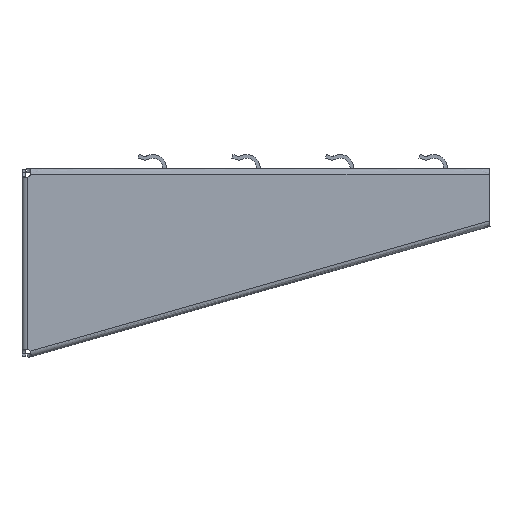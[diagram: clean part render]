
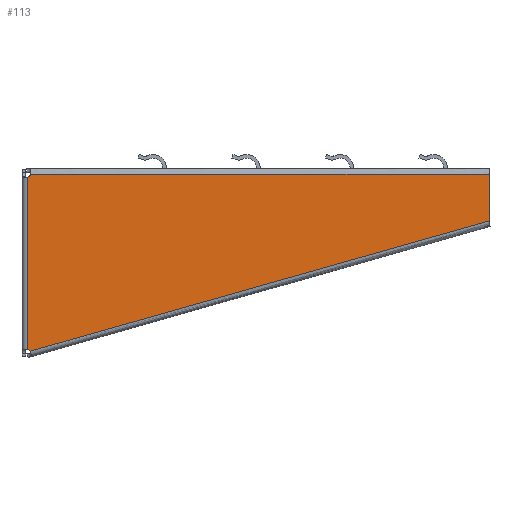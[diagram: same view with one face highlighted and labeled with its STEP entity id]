
A CAD part, left-side view. The second image highlights one B-rep face of the part: STEP entity #113.
In plain terms, the highlighted planar face has unit normal (-1, 0, 0).
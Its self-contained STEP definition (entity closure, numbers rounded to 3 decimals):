
#113=ADVANCED_FACE('',(#239),#2074,.T.);
#239=FACE_OUTER_BOUND('',#373,.T.);
#373=EDGE_LOOP('',(#809,#810,#811,#812,#813,#814,#815,#816,#817,#818,#819,
#820,#821,#822));
#809=ORIENTED_EDGE('',*,*,#1195,.T.);
#810=ORIENTED_EDGE('',*,*,#1295,.T.);
#811=ORIENTED_EDGE('',*,*,#1192,.T.);
#812=ORIENTED_EDGE('',*,*,#1189,.T.);
#813=ORIENTED_EDGE('',*,*,#1186,.T.);
#814=ORIENTED_EDGE('',*,*,#1183,.T.);
#815=ORIENTED_EDGE('',*,*,#1180,.T.);
#816=ORIENTED_EDGE('',*,*,#1290,.T.);
#817=ORIENTED_EDGE('',*,*,#1297,.T.);
#818=ORIENTED_EDGE('',*,*,#1177,.T.);
#819=ORIENTED_EDGE('',*,*,#1174,.T.);
#820=ORIENTED_EDGE('',*,*,#1171,.T.);
#821=ORIENTED_EDGE('',*,*,#1168,.T.);
#822=ORIENTED_EDGE('',*,*,#1292,.F.);
#1168=EDGE_CURVE('',#1814,#1812,#1440,.T.);
#1171=EDGE_CURVE('',#1816,#1814,#1443,.T.);
#1174=EDGE_CURVE('',#1818,#1816,#1446,.T.);
#1177=EDGE_CURVE('',#1820,#1818,#1449,.T.);
#1180=EDGE_CURVE('',#1822,#1808,#1452,.T.);
#1183=EDGE_CURVE('',#1824,#1822,#1455,.T.);
#1186=EDGE_CURVE('',#1826,#1824,#1458,.T.);
#1189=EDGE_CURVE('',#1828,#1826,#1461,.T.);
#1192=EDGE_CURVE('',#1830,#1828,#1464,.T.);
#1195=EDGE_CURVE('',#1832,#1833,#1690,.T.);
#1290=EDGE_CURVE('',#1808,#1810,#1525,.T.);
#1292=EDGE_CURVE('',#1832,#1812,#1527,.T.);
#1295=EDGE_CURVE('',#1833,#1830,#1530,.T.);
#1297=EDGE_CURVE('',#1810,#1820,#1532,.T.);
#1440=(
BOUNDED_CURVE()
B_SPLINE_CURVE(2,(#3413,#3414,#3415),.UNSPECIFIED.,.F.,.F.)
B_SPLINE_CURVE_WITH_KNOTS((3,3),(-599.612,-599.032),
 .UNSPECIFIED.)
CURVE()
GEOMETRIC_REPRESENTATION_ITEM()
RATIONAL_B_SPLINE_CURVE((1.,0.993,1.))
REPRESENTATION_ITEM('')
);
#1443=(
BOUNDED_CURVE()
B_SPLINE_CURVE(2,(#3421,#3422,#3423),.UNSPECIFIED.,.F.,.F.)
B_SPLINE_CURVE_WITH_KNOTS((3,3),(-599.619,-599.612),
 .UNSPECIFIED.)
CURVE()
GEOMETRIC_REPRESENTATION_ITEM()
RATIONAL_B_SPLINE_CURVE((1.,1.,1.))
REPRESENTATION_ITEM('')
);
#1446=(
BOUNDED_CURVE()
B_SPLINE_CURVE(2,(#3429,#3430,#3431),.UNSPECIFIED.,.F.,.F.)
B_SPLINE_CURVE_WITH_KNOTS((3,3),(-600.108,-599.619),
 .UNSPECIFIED.)
CURVE()
GEOMETRIC_REPRESENTATION_ITEM()
RATIONAL_B_SPLINE_CURVE((1.,0.995,1.))
REPRESENTATION_ITEM('')
);
#1449=(
BOUNDED_CURVE()
B_SPLINE_CURVE(2,(#3437,#3438,#3439),.UNSPECIFIED.,.F.,.F.)
B_SPLINE_CURVE_WITH_KNOTS((3,3),(-600.112,-600.108),
 .UNSPECIFIED.)
CURVE()
GEOMETRIC_REPRESENTATION_ITEM()
RATIONAL_B_SPLINE_CURVE((1.,1.,1.))
REPRESENTATION_ITEM('')
);
#1452=(
BOUNDED_CURVE()
B_SPLINE_CURVE(2,(#3445,#3446,#3447),.UNSPECIFIED.,.F.,.F.)
B_SPLINE_CURVE_WITH_KNOTS((3,3),(-760.314,-759.736),
 .UNSPECIFIED.)
CURVE()
GEOMETRIC_REPRESENTATION_ITEM()
RATIONAL_B_SPLINE_CURVE((1.,0.993,1.))
REPRESENTATION_ITEM('')
);
#1455=(
BOUNDED_CURVE()
B_SPLINE_CURVE(2,(#3453,#3454,#3455),.UNSPECIFIED.,.F.,.F.)
B_SPLINE_CURVE_WITH_KNOTS((3,3),(-760.322,-760.314),
 .UNSPECIFIED.)
CURVE()
GEOMETRIC_REPRESENTATION_ITEM()
RATIONAL_B_SPLINE_CURVE((1.,1.,1.))
REPRESENTATION_ITEM('')
);
#1458=(
BOUNDED_CURVE()
B_SPLINE_CURVE(2,(#3461,#3462,#3463),.UNSPECIFIED.,.F.,.F.)
B_SPLINE_CURVE_WITH_KNOTS((3,3),(-761.504,-760.322),
 .UNSPECIFIED.)
CURVE()
GEOMETRIC_REPRESENTATION_ITEM()
RATIONAL_B_SPLINE_CURVE((1.,0.972,1.))
REPRESENTATION_ITEM('')
);
#1461=(
BOUNDED_CURVE()
B_SPLINE_CURVE(2,(#3469,#3470,#3471),.UNSPECIFIED.,.F.,.F.)
B_SPLINE_CURVE_WITH_KNOTS((3,3),(-761.506,-761.504),
 .UNSPECIFIED.)
CURVE()
GEOMETRIC_REPRESENTATION_ITEM()
RATIONAL_B_SPLINE_CURVE((1.,1.,1.))
REPRESENTATION_ITEM('')
);
#1464=(
BOUNDED_CURVE()
B_SPLINE_CURVE(2,(#3478,#3479,#3480),.UNSPECIFIED.,.F.,.F.)
B_SPLINE_CURVE_WITH_KNOTS((3,3),(-762.093,-761.506),
 .UNSPECIFIED.)
CURVE()
GEOMETRIC_REPRESENTATION_ITEM()
RATIONAL_B_SPLINE_CURVE((1.,0.993,1.))
REPRESENTATION_ITEM('')
);
#1525=(
BOUNDED_CURVE()
B_SPLINE_CURVE(1,(#3908,#3909),.UNSPECIFIED.,.F.,.F.)
B_SPLINE_CURVE_WITH_KNOTS((2,2),(0.,91.958),.UNSPECIFIED.)
CURVE()
GEOMETRIC_REPRESENTATION_ITEM()
RATIONAL_B_SPLINE_CURVE((1.,1.))
REPRESENTATION_ITEM('')
);
#1527=(
BOUNDED_CURVE()
B_SPLINE_CURVE(1,(#3912,#3913),.UNSPECIFIED.,.F.,.F.)
B_SPLINE_CURVE_WITH_KNOTS((2,2),(-254.914,0.),.UNSPECIFIED.)
CURVE()
GEOMETRIC_REPRESENTATION_ITEM()
RATIONAL_B_SPLINE_CURVE((1.,1.))
REPRESENTATION_ITEM('')
);
#1530=(
BOUNDED_CURVE()
B_SPLINE_CURVE(1,(#3925,#3926),.UNSPECIFIED.,.F.,.F.)
B_SPLINE_CURVE_WITH_KNOTS((2,2),(-244.93,0.),.UNSPECIFIED.)
CURVE()
GEOMETRIC_REPRESENTATION_ITEM()
RATIONAL_B_SPLINE_CURVE((1.,1.))
REPRESENTATION_ITEM('')
);
#1532=(
BOUNDED_CURVE()
B_SPLINE_CURVE(2,(#3929,#3930,#3931),.UNSPECIFIED.,.F.,.F.)
B_SPLINE_CURVE_WITH_KNOTS((3,3),(-600.698,-600.112),
 .UNSPECIFIED.)
CURVE()
GEOMETRIC_REPRESENTATION_ITEM()
RATIONAL_B_SPLINE_CURVE((1.,0.994,1.))
REPRESENTATION_ITEM('')
);
#1690=B_SPLINE_CURVE_WITH_KNOTS('',1,(#3486,#3487),.UNSPECIFIED.,.F.,.F.,
(2,2),(-1088.059,-1063.12),.UNSPECIFIED.);
#1808=VERTEX_POINT('',#3087);
#1810=VERTEX_POINT('',#3089);
#1812=VERTEX_POINT('',#3091);
#1814=VERTEX_POINT('',#3093);
#1816=VERTEX_POINT('',#3095);
#1818=VERTEX_POINT('',#3097);
#1820=VERTEX_POINT('',#3099);
#1822=VERTEX_POINT('',#3101);
#1824=VERTEX_POINT('',#3103);
#1826=VERTEX_POINT('',#3105);
#1828=VERTEX_POINT('',#3107);
#1830=VERTEX_POINT('',#3109);
#1832=VERTEX_POINT('',#3111);
#1833=VERTEX_POINT('',#3112);
#2074=PLANE('',#2208);
#2208=AXIS2_PLACEMENT_3D('',#3015,#2282,$);
#2282=DIRECTION('',(-1.,0.,0.));
#3015=CARTESIAN_POINT('',(-15.265,27.846,26.921));
#3087=CARTESIAN_POINT('',(-15.265,-1.979,-3.089));
#3089=CARTESIAN_POINT('',(-15.265,-1.979,-95.047));
#3091=CARTESIAN_POINT('',(-15.265,-3.264,-96.017));
#3093=CARTESIAN_POINT('',(-15.265,-2.891,-95.584));
#3095=CARTESIAN_POINT('',(-15.265,-2.886,-95.579));
#3097=CARTESIAN_POINT('',(-15.265,-2.498,-95.287));
#3099=CARTESIAN_POINT('',(-15.265,-2.495,-95.285));
#3101=CARTESIAN_POINT('',(-15.265,-2.498,-2.848));
#3103=CARTESIAN_POINT('',(-15.265,-2.505,-2.844));
#3105=CARTESIAN_POINT('',(-15.265,-3.327,-2.019));
#3107=CARTESIAN_POINT('',(-15.265,-3.329,-2.017));
#3109=CARTESIAN_POINT('',(-15.265,-3.568,-1.5));
#3111=CARTESIAN_POINT('',(-15.265,-248.498,-26.439));
#3112=CARTESIAN_POINT('',(-15.265,-248.498,-1.5));
#3413=CARTESIAN_POINT('',(-15.265,-2.891,-95.584));
#3414=CARTESIAN_POINT('',(-15.265,-3.102,-95.779));
#3415=CARTESIAN_POINT('',(-15.265,-3.264,-96.017));
#3421=CARTESIAN_POINT('',(-15.265,-2.886,-95.579));
#3422=CARTESIAN_POINT('',(-15.265,-2.888,-95.581));
#3423=CARTESIAN_POINT('',(-15.265,-2.891,-95.584));
#3429=CARTESIAN_POINT('',(-15.265,-2.498,-95.287));
#3430=CARTESIAN_POINT('',(-15.265,-2.706,-95.414));
#3431=CARTESIAN_POINT('',(-15.265,-2.886,-95.579));
#3437=CARTESIAN_POINT('',(-15.265,-2.495,-95.285));
#3438=CARTESIAN_POINT('',(-15.265,-2.496,-95.286));
#3439=CARTESIAN_POINT('',(-15.265,-2.498,-95.287));
#3445=CARTESIAN_POINT('',(-15.265,-2.498,-2.848));
#3446=CARTESIAN_POINT('',(-15.265,-2.252,-2.998));
#3447=CARTESIAN_POINT('',(-15.265,-1.979,-3.089));
#3453=CARTESIAN_POINT('',(-15.265,-2.505,-2.844));
#3454=CARTESIAN_POINT('',(-15.265,-2.501,-2.846));
#3455=CARTESIAN_POINT('',(-15.265,-2.498,-2.848));
#3461=CARTESIAN_POINT('',(-15.265,-3.327,-2.019));
#3462=CARTESIAN_POINT('',(-15.265,-3.015,-2.53));
#3463=CARTESIAN_POINT('',(-15.265,-2.505,-2.844));
#3469=CARTESIAN_POINT('',(-15.265,-3.329,-2.017));
#3470=CARTESIAN_POINT('',(-15.265,-3.328,-2.018));
#3471=CARTESIAN_POINT('',(-15.265,-3.327,-2.019));
#3478=CARTESIAN_POINT('',(-15.265,-3.568,-1.5));
#3479=CARTESIAN_POINT('',(-15.265,-3.478,-1.772));
#3480=CARTESIAN_POINT('',(-15.265,-3.329,-2.017));
#3486=CARTESIAN_POINT('',(-15.265,-248.498,-26.439));
#3487=CARTESIAN_POINT('',(-15.265,-248.498,-1.5));
#3908=CARTESIAN_POINT('',(-15.265,-1.979,-3.089));
#3909=CARTESIAN_POINT('',(-15.265,-1.979,-95.047));
#3912=CARTESIAN_POINT('',(-15.265,-248.498,-26.439));
#3913=CARTESIAN_POINT('',(-15.265,-3.264,-96.017));
#3925=CARTESIAN_POINT('',(-15.265,-248.498,-1.5));
#3926=CARTESIAN_POINT('',(-15.265,-3.568,-1.5));
#3929=CARTESIAN_POINT('',(-15.265,-1.979,-95.047));
#3930=CARTESIAN_POINT('',(-15.265,-2.251,-95.136));
#3931=CARTESIAN_POINT('',(-15.265,-2.495,-95.285));
